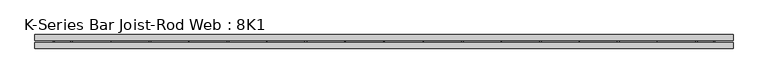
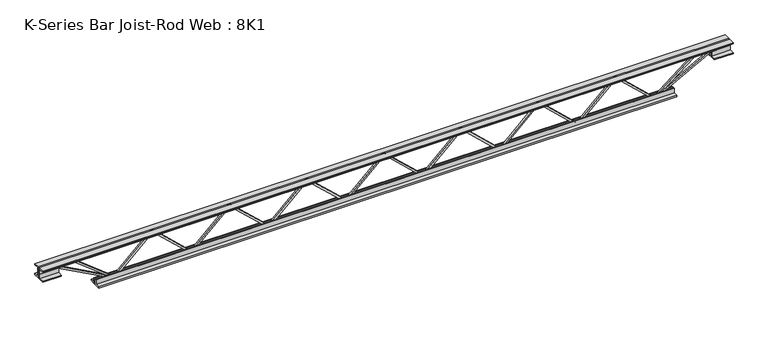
"""IFC4 building model written with IfcOpenShell, lengths in millimetres: beam geometry, K-Series Bar Joist-Rod Web : 8K1."""

from ifc_helpers import new_model, si_unit, frame, origin, place, context, project, spatial, polyline, outline, extrude, source, transform, mapped, element, save


def k_series_bar_joist_rod_web_8k1_99a1bd95(model_context):
    return source(origin(), model_context, "Body", "SweptSolid", [
        extrude(outline(polyline([(-90.4875, 629.4128318), (-100.0125, 629.4128318), (-100.0125, 634.4694324), (90.4875, 837.9237097), (90.4875, 840.5105084), (-100.0125, 1043.9647856), (-100.0125, 1049.0213863), (-90.4875, 1049.0213863), (-90.4875, 1047.7279869), (100.0125, 844.2737097), (100.0125, 834.1605084), (-90.4875, 630.7062311), (-90.4875, 629.4128318)])), frame((0.0, -4.7625, 0.0), z_axis=(0.0, 1.0, 0.0), x_axis=(0.0, 0.0, 1.0)), (0.0, 0.0, 1.0), 9.525),
        extrude(outline(polyline([(-90.4875, 209.8042773), (-100.0125, 209.8042773), (-100.0125, 214.8608779), (90.4875, 418.3151552), (90.4875, 420.9019538), (-100.0125, 624.3562311), (-100.0125, 629.4128318), (-90.4875, 629.4128318), (-90.4875, 628.1194324), (100.0125, 424.6651552), (100.0125, 414.5519538), (-90.4875, 211.0976766), (-90.4875, 209.8042773)])), frame((0.0, -4.7625, 0.0), z_axis=(0.0, 1.0, 0.0), x_axis=(0.0, 0.0, 1.0)), (0.0, 0.0, 1.0), 9.525),
        extrude(outline(polyline([(-90.4875, -209.8042773), (-100.0125, -209.8042773), (-100.0125, -204.7476766), (90.4875, -1.2933993), (90.4875, 1.2933993), (-100.0125, 204.7476766), (-100.0125, 209.8042773), (-90.4875, 209.8042773), (-90.4875, 208.5108779), (100.0125, 5.0566007), (100.0125, -5.0566007), (-90.4875, -208.5108779), (-90.4875, -209.8042773)])), frame((0.0, -4.7625, 0.0), z_axis=(0.0, 1.0, 0.0), x_axis=(0.0, 0.0, 1.0)), (0.0, 0.0, 1.0), 9.525),
        extrude(outline(polyline([(-90.4875, -629.4128318), (-100.0125, -629.4128318), (-100.0125, -624.3562311), (90.4875, -420.9019538), (90.4875, -418.3151552), (-100.0125, -214.8608779), (-100.0125, -209.8042773), (-90.4875, -209.8042773), (-90.4875, -211.0976766), (100.0125, -414.5519538), (100.0125, -424.6651552), (-90.4875, -628.1194324), (-90.4875, -629.4128318)])), frame((0.0, -4.7625, 0.0), z_axis=(0.0, 1.0, 0.0), x_axis=(0.0, 0.0, 1.0)), (0.0, 0.0, 1.0), 9.525),
        extrude(outline(polyline([(-90.4875, -1049.0213863), (-100.0125, -1049.0213863), (-100.0125, -1043.9647856), (90.4875, -840.5105084), (90.4875, -837.9237097), (-100.0125, -634.4694324), (-100.0125, -629.4128318), (-90.4875, -629.4128318), (-90.4875, -630.7062311), (100.0125, -834.1605084), (100.0125, -844.2737097), (-90.4875, -1047.7279869), (-90.4875, -1049.0213863)])), frame((0.0, -4.7625, 0.0), z_axis=(0.0, 1.0, 0.0), x_axis=(0.0, 0.0, 1.0)), (0.0, 0.0, 1.0), 9.525),
        extrude(outline(polyline([(-90.4875, 1049.0213863), (-100.0125, 1049.0213863), (-100.0125, 1054.0779869), (90.4875, 1257.5322642), (90.4875, 1260.1190629), (-100.0125, 1463.5733401), (-100.0125, 1468.6299408), (-90.4875, 1468.6299408), (-90.4875, 1467.3365415), (100.0125, 1263.8822642), (100.0125, 1253.7690629), (-90.4875, 1050.3147856), (-90.4875, 1049.0213863)])), frame((0.0, -4.7625, 0.0), z_axis=(0.0, 1.0, 0.0), x_axis=(0.0, 0.0, 1.0)), (0.0, 0.0, 1.0), 9.525),
        extrude(outline(polyline([(-90.4875, -1468.6299408), (-100.0125, -1468.6299408), (-100.0125, -1463.5733401), (90.4875, -1260.1190629), (90.4875, -1257.5322642), (-100.0125, -1054.0779869), (-100.0125, -1049.0213863), (-90.4875, -1049.0213863), (-90.4875, -1050.3147856), (100.0125, -1253.7690629), (100.0125, -1263.8822642), (-90.4875, -1467.3365415), (-90.4875, -1468.6299408)])), frame((0.0, -4.7625, 0.0), z_axis=(0.0, 1.0, 0.0), x_axis=(0.0, 0.0, 1.0)), (0.0, 0.0, 1.0), 9.525),
        extrude(outline(polyline([(4.7625, 101.6), (36.5125, 101.6), (36.5125, 95.25), (11.1125, 95.25), (11.1125, 69.85), (4.7625, 69.85), (4.7625, 101.6)])), frame((-1875.0299408, 0.0, 0.0), z_axis=(1.0, 0.0, 0.0), x_axis=(0.0, 1.0, 0.0)), (0.0, 0.0, 1.0), 3750.0598816),
        extrude(outline(polyline([(-4.7625, 101.6), (-4.7625, 69.85), (-11.1125, 69.85), (-11.1125, 95.25), (-36.5125, 95.25), (-36.5125, 101.6), (-4.7625, 101.6)])), frame((-1875.0299408, 0.0, 0.0), z_axis=(1.0, 0.0, 0.0), x_axis=(0.0, 1.0, 0.0)), (0.0, 0.0, 1.0), 3750.0598816),
        extrude(outline(polyline([(-4.7625, 38.1), (-36.5125, 38.1), (-36.5125, 44.45), (-11.1125, 44.45), (-11.1125, 69.85), (-4.7625, 69.85), (-4.7625, 38.1)])), frame((-1875.0299408, 0.0, 0.0), z_axis=(1.0, 0.0, 0.0), x_axis=(0.0, 1.0, 0.0)), (0.0, 0.0, 1.0), 101.6),
        extrude(outline(polyline([(36.5125, 38.1), (4.7625, 38.1), (4.7625, 69.85), (11.1125, 69.85), (11.1125, 44.45), (36.5125, 44.45), (36.5125, 38.1)])), frame((-1875.0299408, 0.0, 0.0), z_axis=(1.0, 0.0, 0.0), x_axis=(0.0, 1.0, 0.0)), (0.0, 0.0, 1.0), 101.6),
        extrude(outline(polyline([(4.7625, 38.1), (4.7625, 69.85), (11.1125, 69.85), (11.1125, 44.45), (36.5125, 44.45), (36.5125, 38.1), (4.7625, 38.1)])), frame((1773.4299408, 0.0, 0.0), z_axis=(1.0, 0.0, 0.0), x_axis=(0.0, 1.0, 0.0)), (0.0, 0.0, 1.0), 101.6),
        extrude(outline(polyline([(-4.7625, 38.1), (-36.5125, 38.1), (-36.5125, 44.45), (-11.1125, 44.45), (-11.1125, 69.85), (-4.7625, 69.85), (-4.7625, 38.1)])), frame((1773.4299408, 0.0, 0.0), z_axis=(1.0, 0.0, 0.0), x_axis=(0.0, 1.0, 0.0)), (0.0, 0.0, 1.0), 101.6),
        extrude(outline(polyline([(4.7625, -101.6), (4.7625, -69.85), (11.1125, -69.85), (11.1125, -95.25), (36.5125, -95.25), (36.5125, -101.6), (4.7625, -101.6)])), frame((-1570.2299408, 0.0, 0.0), z_axis=(1.0, 0.0, 0.0), x_axis=(0.0, 1.0, 0.0)), (0.0, 0.0, 1.0), 3140.4598816),
        extrude(outline(polyline([(-4.7625, -101.6), (-36.5125, -101.6), (-36.5125, -95.25), (-11.1125, -95.25), (-11.1125, -69.85), (-4.7625, -69.85), (-4.7625, -101.6)])), frame((-1570.2299408, 0.0, 0.0), z_axis=(1.0, 0.0, 0.0), x_axis=(0.0, 1.0, 0.0)), (0.0, 0.0, 1.0), 3140.4598816),
        extrude(outline(polyline([(0.0, -9.525), (0.0, 0.0), (346.6425392, 0.0), (346.6425392, -9.525), (0.0, -9.525)])), frame((-1775.6982393, 4.7625, 65.662372), z_axis=(0.4762831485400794, 0.0, 0.8792919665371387), x_axis=(0.8792919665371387, 0.0, -0.4762831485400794)), (0.0, 0.0, 1.0), 9.525),
        extrude(outline(polyline([(0.0, -9.525), (0.0, 0.0), (266.9753636, 0.0), (266.9753636, -9.525), (0.0, -9.525)])), frame((-1681.3793915, 4.7625, 66.1073593), z_axis=(0.6184091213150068, 0.0, 0.7858563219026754), x_axis=(0.7858563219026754, 0.0, -0.6184091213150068)), (0.0, 0.0, 1.0), 9.525),
        extrude(outline(polyline([(0.0, -9.525), (0.0, 0.0), (346.6425392, 0.0), (346.6425392, -9.525), (0.0, -9.525)])), frame((1775.6982393, -4.7625, 65.662372), z_axis=(-0.47628314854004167, 0.0, 0.8792919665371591), x_axis=(-0.8792919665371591, 0.0, -0.47628314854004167)), (0.0, 0.0, 1.0), 9.525),
        extrude(outline(polyline([(0.0, -9.525), (0.0, 0.0), (266.9753636, 0.0), (266.9753636, -9.525), (0.0, -9.525)])), frame((1681.3793915, -4.7625, 66.1073593), z_axis=(-0.6184091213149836, 0.0, 0.7858563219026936), x_axis=(-0.7858563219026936, 0.0, -0.6184091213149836)), (0.0, 0.0, 1.0), 9.525),
    ])


if __name__ == "__main__":
    model = new_model("IFC4")
    model_context = context("Model", 3, world=origin())
    ifc_project = project(units=[si_unit("LENGTHUNIT", "METRE", prefix="MILLI")], contexts=[model_context])
    site = spatial("IfcSite", under=ifc_project)
    building = spatial("IfcBuilding", under=site)
    placement = place(None, origin())
    k_series_bar_joist_rod_web_8k1_shape = k_series_bar_joist_rod_web_8k1_99a1bd95(model_context)
    element("IfcBeam", 1, ObjectType="K-Series Bar Joist-Rod Web : 8K1", at=placement, inside=building, context=model_context, shape_type="MappedRepresentation", body=[
        mapped(k_series_bar_joist_rod_web_8k1_shape, transform((0.0, 0.0, 0.0), x_axis=(1.0, 0.0, 0.0), y_axis=(0.0, 1.0, 0.0), z_axis=(0.0, 0.0, 1.0))),
    ])
    save(model, "model.ifc")
